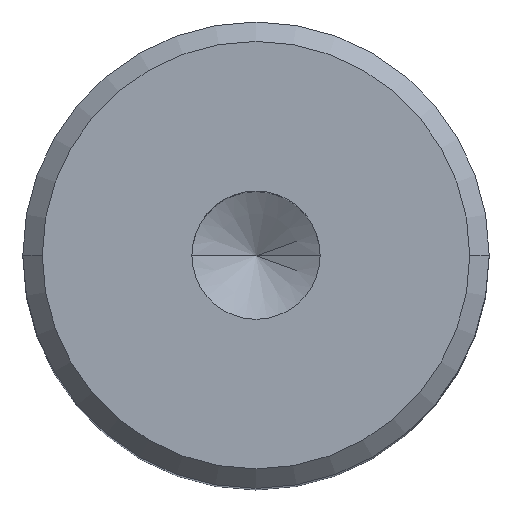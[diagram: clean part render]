
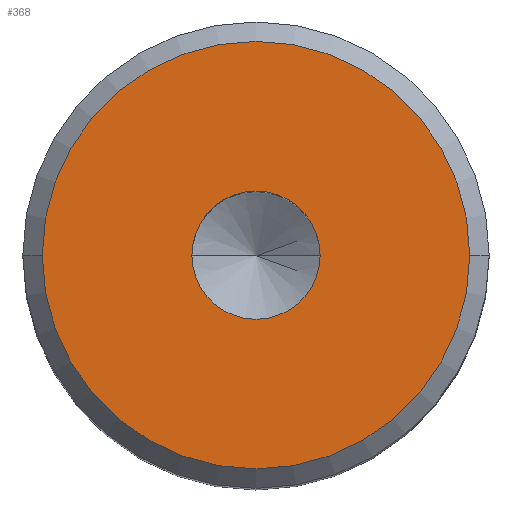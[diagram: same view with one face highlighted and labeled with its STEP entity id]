
A CAD part, top view. The second image highlights one B-rep face of the part: STEP entity #368.
In plain terms, the highlighted planar face has unit normal (0, 0, 1).
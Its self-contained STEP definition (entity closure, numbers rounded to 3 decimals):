
#2 = EDGE_LOOP ( 'NONE', ( #424, #457 ) ) ;
#15 = EDGE_CURVE ( 'NONE', #284, #316, #367, .T. ) ;
#30 = EDGE_CURVE ( 'NONE', #316, #284, #211, .T. ) ;
#62 = CARTESIAN_POINT ( 'NONE',  ( -5.5, 0., 25. ) ) ;
#76 = PLANE ( 'NONE',  #466 ) ;
#90 = VERTEX_POINT ( 'NONE', #62 ) ;
#105 = CIRCLE ( 'NONE', #439, 5.5 ) ;
#120 = AXIS2_PLACEMENT_3D ( 'NONE', #357, #470, #321 ) ;
#121 = DIRECTION ( 'NONE',  ( 1., 0., 0. ) ) ;
#125 = AXIS2_PLACEMENT_3D ( 'NONE', #460, #425, #121 ) ;
#130 = DIRECTION ( 'NONE',  ( 0., 0., 1. ) ) ;
#143 = CARTESIAN_POINT ( 'NONE',  ( -1.65, 0., 25. ) ) ;
#150 = CARTESIAN_POINT ( 'NONE',  ( 5.5, 0., 25. ) ) ;
#172 = CIRCLE ( 'NONE', #125, 5.5 ) ;
#211 = CIRCLE ( 'NONE', #120, 1.65 ) ;
#212 = EDGE_LOOP ( 'NONE', ( #257, #252 ) ) ;
#215 = DIRECTION ( 'NONE',  ( 1., 0., 0. ) ) ;
#219 = DIRECTION ( 'NONE',  ( 1., 0., 0. ) ) ;
#220 = DIRECTION ( 'NONE',  ( 0., 0., 1. ) ) ;
#227 = AXIS2_PLACEMENT_3D ( 'NONE', #362, #130, #398 ) ;
#243 = FACE_OUTER_BOUND ( 'NONE', #2, .T. ) ;
#252 = ORIENTED_EDGE ( 'NONE', *, *, #15, .F. ) ;
#257 = ORIENTED_EDGE ( 'NONE', *, *, #30, .F. ) ;
#262 = DIRECTION ( 'NONE',  ( 0., 0., 1. ) ) ;
#284 = VERTEX_POINT ( 'NONE', #143 ) ;
#290 = FACE_BOUND ( 'NONE', #212, .T. ) ;
#316 = VERTEX_POINT ( 'NONE', #421 ) ;
#321 = DIRECTION ( 'NONE',  ( 1., 0., 0. ) ) ;
#331 = VERTEX_POINT ( 'NONE', #150 ) ;
#347 = EDGE_CURVE ( 'NONE', #331, #90, #105, .T. ) ;
#357 = CARTESIAN_POINT ( 'NONE',  ( 0., 0., 25. ) ) ;
#362 = CARTESIAN_POINT ( 'NONE',  ( 0., 0., 25. ) ) ;
#367 = CIRCLE ( 'NONE', #227, 1.65 ) ;
#368 = ADVANCED_FACE ( 'NONE', ( #290, #243 ), #76, .T. ) ;
#398 = DIRECTION ( 'NONE',  ( 1., 0., 0. ) ) ;
#419 = CARTESIAN_POINT ( 'NONE',  ( 0., 0., 25. ) ) ;
#421 = CARTESIAN_POINT ( 'NONE',  ( 1.65, 0., 25. ) ) ;
#424 = ORIENTED_EDGE ( 'NONE', *, *, #426, .T. ) ;
#425 = DIRECTION ( 'NONE',  ( 0., 0., 1. ) ) ;
#426 = EDGE_CURVE ( 'NONE', #90, #331, #172, .T. ) ;
#439 = AXIS2_PLACEMENT_3D ( 'NONE', #453, #262, #215 ) ;
#453 = CARTESIAN_POINT ( 'NONE',  ( 0., 0., 25. ) ) ;
#457 = ORIENTED_EDGE ( 'NONE', *, *, #347, .T. ) ;
#460 = CARTESIAN_POINT ( 'NONE',  ( 0., 0., 25. ) ) ;
#466 = AXIS2_PLACEMENT_3D ( 'NONE', #419, #220, #219 ) ;
#470 = DIRECTION ( 'NONE',  ( 0., 0., 1. ) ) ;
